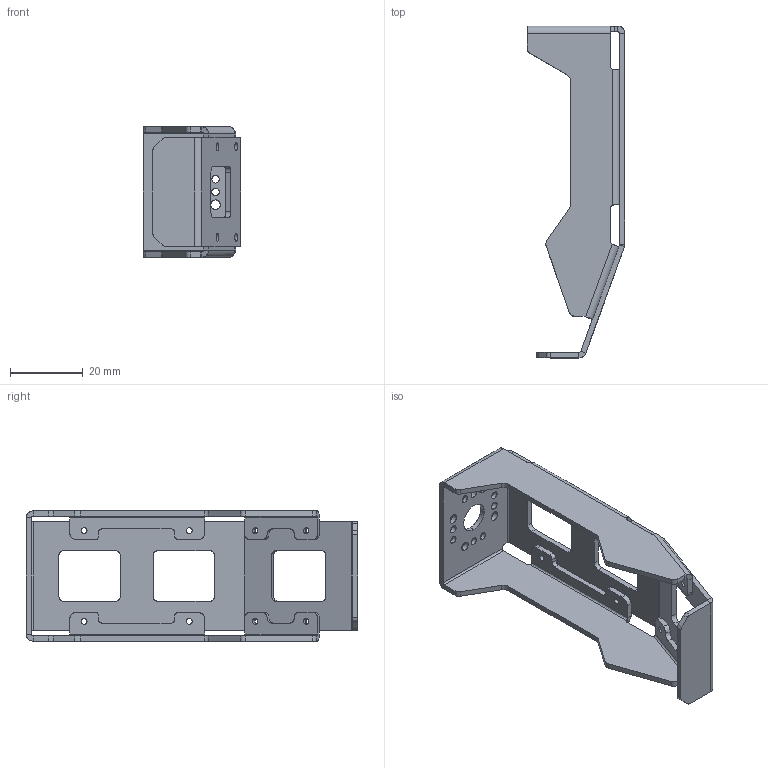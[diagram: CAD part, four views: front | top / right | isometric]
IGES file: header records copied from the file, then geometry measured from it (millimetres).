
Global section: file name: C:\Users\Knabe\Documents\Classes\8 Semester 8\DARwIn\Deliverables\DARwIn OP\DARwIn OP Part Files\OP 3D CAD Files\3D IGS\12_FR07_E180.igs; native system: NX V7.0; preprocessor: SIEMENS PLM Software NX 7.0; date: 20110525.180328; units: millimetre
Bounding box: 27 x 91.51 x 36 mm (x, y, z)
Surface area: 13570.9 mm2 (no closed solid volume)
Topology: 0 solids, 0 shells, 264 faces, 1854 edges, 1854 vertices
Faces by surface type: bspline 264
